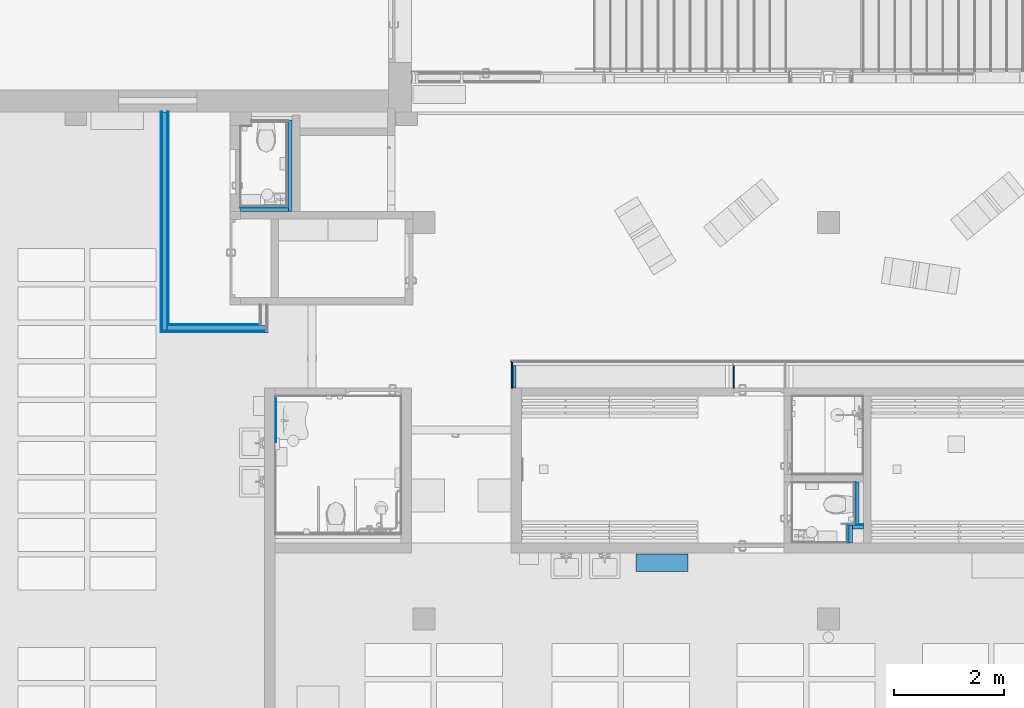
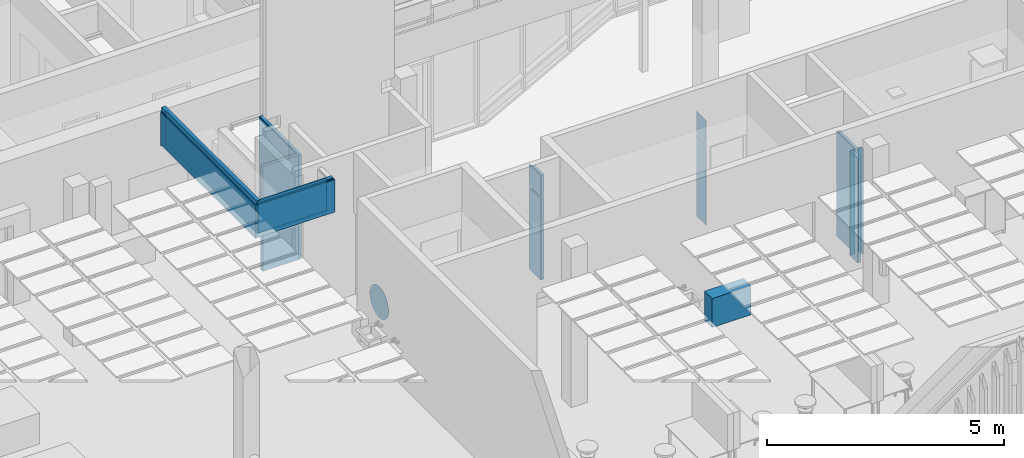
# One storey, part 185 of 301: 29 building element parts, 2 discrete accessories, 9 elements without a shape of their own.
"""IFC2X3 building model written with IfcOpenShell, lengths in millimetres."""

from ifc_helpers import new_model, entity, si_unit, converted_unit, derived_unit, money_unit, direction, frame, origin_with_axes, place, context, subcontext, project, spatial, faceted_brep, material, type_object, element, aggregate, save


model = new_model("IFC2X3")

# Units and contexts
model_context = context("Model", 3, precision=0.01, world=origin_with_axes(), true_north=direction((0.0, 1.0)))
body_context = subcontext(model_context, "Body", "Model", "MODEL_VIEW")
ifc_project = project(units=[si_unit("LENGTHUNIT", "METRE", prefix="MILLI"), si_unit("AREAUNIT", "SQUARE_METRE"), si_unit("VOLUMEUNIT", "CUBIC_METRE"), converted_unit("PLANEANGLEUNIT", "DEGREE", entity("IfcPlaneAngleMeasure", 0.0174532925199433), si_unit("PLANEANGLEUNIT", "RADIAN"), dimensions=[0, 0, 0, 0, 0, 0, 0]), money_unit("EUR"), converted_unit("TIMEUNIT", "Year", entity("IfcTimeMeasure", 31557600.0), si_unit("TIMEUNIT", "SECOND"), dimensions=[0, 0, 1, 0, 0, 0, 0]), si_unit("MASSUNIT", "GRAM", prefix="KILO"), si_unit("THERMODYNAMICTEMPERATUREUNIT", "DEGREE_CELSIUS"), si_unit("LUMINOUSINTENSITYUNIT", "LUMEN"), si_unit("ENERGYUNIT", "JOULE", prefix="MEGA"), derived_unit("THERMALCONDUCTANCEUNIT", [(si_unit("POWERUNIT", "WATT"), 1), (si_unit("LENGTHUNIT", "METRE"), -1), (si_unit("THERMODYNAMICTEMPERATUREUNIT", "KELVIN"), -1)]), derived_unit("SPECIFICHEATCAPACITYUNIT", [(si_unit("ENERGYUNIT", "JOULE"), 1), (si_unit("MASSUNIT", "GRAM", prefix="KILO"), -1), (si_unit("THERMODYNAMICTEMPERATUREUNIT", "KELVIN"), -1)]), derived_unit("MASSDENSITYUNIT", [(si_unit("MASSUNIT", "GRAM", prefix="KILO"), 1), (si_unit("VOLUMEUNIT", "CUBIC_METRE"), -1)])], contexts=[model_context])

# Site, building, storey
site_placement = place(None, frame((0.0, 0.0, 8650.0), z_axis=(0.0, 0.0, 1.0), x_axis=(1.0, 0.0, 0.0)))
site = spatial("IfcSite", under=ifc_project, at=site_placement, Name="43301:001:0844", CompositionType="ELEMENT")
building_placement = place(site_placement, origin_with_axes())
building = spatial("IfcBuilding", under=site, at=building_placement, Name="Kuressaare Ametikooli tuulikute mehaanikute õppekorpus", CompositionType="ELEMENT")
storey_placement = place(building_placement, origin_with_axes())
storey = spatial("IfcBuildingStorey", under=building, at=storey_placement, Name="1.korrus", CompositionType="ELEMENT", Elevation=0.0)

# Discrete accessories
discrete_accessory_type_1 = type_object("IfcDiscreteAccessoryType", Name="Cylinder 27")
discrete_accessory_1_placement = place(storey_placement, frame((101177.9525189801, 20174.79367567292, 1290.0), z_axis=(0.0, 0.0, 1.0), x_axis=(-1.0, 0.0, 0.0)))
element("IfcDiscreteAccessory", 1, at=discrete_accessory_1_placement, inside=storey, type_object=discrete_accessory_type_1, Name="P2", context=body_context, shape_type="Brep", body=[
    faceted_brep([(0.0, -136.8080573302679, -375.8770483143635), (-10.00000000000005, -136.8080573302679, -375.8770483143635), (-10.00000000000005, 0.0, -400.0), (0.0, 0.0, -400.0), (0.0, -257.1150438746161, -306.4177772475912), (-10.00000000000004, -257.1150438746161, -306.4177772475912), (-10.00000000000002, -346.4101615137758, -199.9999999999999), (-10.00000000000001, -393.9231012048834, -69.45927106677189), (-9.999999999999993, -393.9231012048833, 69.45927106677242), (-9.999999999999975, -346.4101615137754, 200.0000000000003), (-9.999999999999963, -257.1150438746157, 306.4177772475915), (-9.999999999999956, -136.8080573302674, 375.8770483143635), (-9.999999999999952, 0.0, 400.0000000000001), (-9.999999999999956, 136.8080573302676, 375.8770483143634), (-9.999999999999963, 257.1150438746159, 306.4177772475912), (-9.999999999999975, 346.4101615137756, 199.9999999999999), (-9.999999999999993, 393.9231012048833, 69.45927106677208), (-10.00000000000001, 393.9231012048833, -69.45927106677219), (-10.00000000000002, 346.4101615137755, -200.0000000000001), (-10.00000000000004, 257.1150438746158, -306.4177772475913), (-10.00000000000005, 136.8080573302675, -375.8770483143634), (0.0, 136.8080573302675, -375.8770483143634), (0.0, 257.1150438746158, -306.4177772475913), (0.0, 346.4101615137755, -200.0000000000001), (0.0, 393.9231012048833, -69.45927106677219), (0.0, 393.9231012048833, 69.45927106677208), (0.0, 346.4101615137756, 199.9999999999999), (0.0, 257.1150438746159, 306.4177772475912), (0.0, 136.8080573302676, 375.8770483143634), (0.0, 0.0, 400.0000000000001), (0.0, -136.8080573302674, 375.8770483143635), (0.0, -257.1150438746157, 306.4177772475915), (0.0, -346.4101615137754, 200.0000000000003), (0.0, -393.9231012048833, 69.45927106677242), (0.0, -393.9231012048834, -69.45927106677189), (0.0, -346.4101615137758, -199.9999999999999)], [[[0, 1, 2, 3]], [[4, 5, 1, 0]], [[1, 5, 6, 7, 8, 9, 10, 11, 12, 13, 14, 15, 16, 17, 18, 19, 20, 2]], [[3, 2, 20, 21]], [[0, 3, 21, 22, 23, 24, 25, 26, 27, 28, 29, 30, 31, 32, 33, 34, 35, 4]], [[35, 6, 5, 4]], [[34, 7, 6, 35]], [[33, 8, 7, 34]], [[32, 9, 8, 33]], [[31, 10, 9, 32]], [[30, 11, 10, 31]], [[29, 12, 11, 30]], [[28, 13, 12, 29]], [[27, 14, 13, 28]], [[26, 15, 14, 27]], [[25, 16, 15, 26]], [[24, 17, 16, 25]], [[23, 18, 17, 24]], [[22, 19, 18, 23]], [[21, 20, 19, 22]]]),
])
ifc_material_1 = material(Name="GENEERILINE - KONSTRUKTRIOON")
discrete_accessory_type_2 = type_object("IfcDiscreteAccessoryType", Name="GENEERILINE - KONSTRUKTRIOON 750")
discrete_accessory_2_placement = place(storey_placement, frame((107721.9337056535, 17754.91483016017, 0.0), z_axis=(0.0, 0.0, 1.0), x_axis=(1.0, 0.0, 0.0)))
element("IfcDiscreteAccessory", 2, at=discrete_accessory_2_placement, inside=storey, type_object=discrete_accessory_type_2, material=ifc_material_1, Name="PR2", context=body_context, shape_type="Brep", body=[
    faceted_brep([(0.0, 0.0, 750.0), (0.0, 0.0, 0.0), (0.0, -319.9999999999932, 0.0), (0.0, -319.9999999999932, 750.0), (949.9999999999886, 0.0, 750.0), (949.9999999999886, 0.0, 0.0), (949.9999999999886, -319.9999999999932, 0.0), (949.9999999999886, -319.9999999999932, 750.0)], [[[0, 1, 2, 3]], [[4, 5, 1, 0]], [[2, 1, 5, 6]], [[3, 2, 6, 7]], [[4, 0, 3, 7]], [[7, 6, 5, 4]]]),
])

# Wall, building element parts
wall_type_1 = type_object("IfcWallType", Name="SS-2.4 92", PredefinedType="NOTDEFINED")
wall_1_placement = place(storey_placement, frame((111565.5114242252, 18294.83712413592, 0.0), z_axis=(0.0, 0.0, 1.0), x_axis=(-3.329163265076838e-07, -0.9999999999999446, 0.0)))
wall_1 = element("IfcWall", 3, at=wall_1_placement, inside=storey, type_object=wall_type_1, Name="Sisesein")
ifc_material_2 = material(Name="Air Space - Frame")
building_element_part_1_placement = place(wall_1_placement, origin_with_axes())
building_element_part_1 = element("IfcBuildingElementPart", 4, at=building_element_part_1_placement, material=ifc_material_2, Name="Air Space - Frame", context=body_context, shape_type="Brep", body=[
    faceted_brep([(25.9999693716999, 92.00000000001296, 0.0), (25.9999693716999, 92.00000000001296, 2700.0), (340.0017374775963, 92.00000000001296, 2700.0), (340.0011823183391, 92.00000000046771, 2600.0), (340.0011823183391, 91.99999999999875, 0.0), (25.99999134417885, 26.00000000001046, 0.0), (25.99999134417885, 26.00000000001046, 2600.0), (25.99999134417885, 26.00000000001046, 2700.0), (340.0017374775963, 26.00000000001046, 2700.0), (340.0011284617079, 26.00000000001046, 0.0)], [[[0, 1, 2, 3, 4]], [[1, 0, 5, 6, 7]], [[1, 7, 8, 2]], [[2, 8, 9, 4, 3]], [[5, 0, 4, 9]], [[6, 5, 9, 8, 7]]]),
])
ifc_material_3 = material(Name="Plywood")
building_element_part_2_placement = place(wall_1_placement, origin_with_axes())
building_element_part_2 = element("IfcBuildingElementPart", 5, at=building_element_part_2_placement, material=ifc_material_3, Name="Plywood", context=body_context, shape_type="Brep", body=[
    faceted_brep([(12.99999134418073, 25.99999999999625, 0.0), (12.99999134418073, 25.99999999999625, 2700.0), (340.0017374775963, 26.00000000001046, 2700.0), (340.0011284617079, 26.00000000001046, 0.0), (12.99999567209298, 13.00000000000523, 0.0), (12.99999567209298, 13.00000000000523, 2600.0), (12.99999567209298, 13.00000000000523, 2700.0), (340.0017374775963, 13.00000000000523, 2700.0), (340.001117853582, 13.00000000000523, 0.0)], [[[0, 1, 2, 3]], [[1, 0, 4, 5, 6]], [[1, 6, 7, 2]], [[2, 7, 8, 3]], [[4, 0, 3, 8]], [[5, 4, 8, 7, 6]]]),
])
ifc_material_4 = material(Name="Plaster - Gypsum")
building_element_part_3_placement = place(wall_1_placement, origin_with_axes())
building_element_part_3 = element("IfcBuildingElementPart", 6, at=building_element_part_3_placement, material=ifc_material_4, Name="Plaster - Gypsum", context=body_context, shape_type="Brep", body=[
    faceted_brep([(340.001117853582, 13.00000000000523, 0.0), (-4.32791580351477e-06, 13.00000000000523, 0.0), (-4.32791580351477e-06, 13.00000000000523, 2700.0), (340.0017374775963, 13.00000000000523, 2700.0), (340.0011072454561, 0.0, 0.0), (0.0, 0.0, 0.0), (0.0, 0.0, 2700.0), (340.0017374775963, 0.0, 2700.0), (340.0011072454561, 5.258016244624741e-10, 2600.0)], [[[0, 1, 2, 3]], [[4, 5, 1, 0]], [[6, 2, 1, 5]], [[3, 2, 6, 7]], [[7, 8, 4, 0, 3]], [[6, 5, 4, 8, 7]]]),
])
aggregate(wall_1, [building_element_part_1, building_element_part_2, building_element_part_3])

wall_2_placement = place(storey_placement, frame((111855.5122796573, 18294.83712413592, 0.0), z_axis=(0.0, 0.0, 1.0), x_axis=(-1.0, 0.0, 0.0)))
wall_2 = element("IfcWall", 7, at=wall_2_placement, inside=storey, type_object=wall_type_1, Name="Sisesein")
building_element_part_4_placement = place(wall_2_placement, origin_with_axes())
building_element_part_4 = element("IfcBuildingElementPart", 8, at=building_element_part_4_placement, material=ifc_material_2, Name="Air Space - Frame", context=body_context, shape_type="Brep", body=[
    faceted_brep([(198.0008640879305, 25.9999999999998, 0.0), (198.0008640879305, 25.9999999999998, 2700.0), (-0.005232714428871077, 25.9999999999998, 2700.0), (-0.005232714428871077, 25.9999999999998, 0.0), (198.0008860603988, 91.99999999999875, 0.0), (198.0008860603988, 91.99999999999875, 2700.0), (-0.005379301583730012, 91.99999999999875, 2700.0), (-0.005379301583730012, 91.99999999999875, 0.0)], [[[0, 1, 2, 3]], [[1, 0, 4, 5]], [[1, 5, 6, 2]], [[3, 2, 6, 7]], [[4, 0, 3, 7]], [[4, 7, 6, 5]]]),
])
building_element_part_5_placement = place(wall_2_placement, origin_with_axes())
building_element_part_5 = element("IfcBuildingElementPart", 9, at=building_element_part_5_placement, material=ifc_material_3, Name="Plywood", context=body_context, shape_type="Brep", body=[
    faceted_brep([(264.0008597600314, 13.00000000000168, 0.0), (264.0008597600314, 13.00000000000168, 2700.0), (-0.005203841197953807, 13.00000000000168, 2700.0), (-0.005203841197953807, 13.00000000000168, 0.0), (264.000864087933, 25.9999999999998, 0.0), (264.000864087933, 25.9999999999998, 2700.0), (-0.005232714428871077, 25.9999999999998, 2700.0), (-0.005232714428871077, 25.9999999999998, 0.0)], [[[0, 1, 2, 3]], [[1, 0, 4, 5]], [[1, 5, 6, 2]], [[3, 2, 6, 7]], [[4, 0, 3, 7]], [[4, 7, 6, 5]]]),
])
building_element_part_6_placement = place(wall_2_placement, origin_with_axes())
building_element_part_6 = element("IfcBuildingElementPart", 10, at=building_element_part_6_placement, material=ifc_material_4, Name="Plaster - Gypsum", context=body_context, shape_type="Brep", body=[
    faceted_brep([(277.0008554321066, 0.0, 0.0), (277.0008554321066, 0.0, 2700.0), (156.9997514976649, 0.0, 2700.0), (156.9997514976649, 0.0, 0.0), (277.0008597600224, 13.00000000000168, 0.0), (277.0008597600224, 13.00000000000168, 2700.0), (156.9997488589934, 13.00000000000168, 2700.0), (156.9997488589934, 13.00000000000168, 2600.0), (156.9997488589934, 13.00000000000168, 0.0)], [[[0, 1, 2, 3]], [[1, 0, 4, 5]], [[1, 5, 6, 2]], [[2, 6, 7, 8, 3]], [[4, 0, 3, 8]], [[4, 8, 7, 6, 5]]]),
    faceted_brep([(77.99975149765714, 0.0, 2700.0), (-0.005174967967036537, 0.0, 2700.0), (-0.005174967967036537, 0.0, 0.0), (77.99975149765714, 0.0, 0.0), (77.99974885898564, 13.00000000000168, 2700.0), (-0.005203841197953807, 13.00000000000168, 2700.0), (-0.005203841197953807, 13.00000000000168, 0.0), (77.99974885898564, 13.00000000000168, 0.0), (77.99974885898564, 13.00000000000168, 2600.0)], [[[0, 1, 2, 3]], [[0, 4, 5, 1]], [[2, 1, 5, 6]], [[7, 3, 2, 6]], [[8, 4, 0, 3, 7]], [[4, 8, 7, 6, 5]]]),
])
aggregate(wall_2, [building_element_part_4, building_element_part_5, building_element_part_6])

wall_type_2 = type_object("IfcWallType", Name="SS-2.1 147", PredefinedType="NOTDEFINED")
wall_3_placement = place(storey_placement, frame((99086.0631579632, 25783.06892395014, 2640.0), z_axis=(0.0, 0.0, 1.0), x_axis=(0.0, -1.0, 0.0)))
wall_3 = element("IfcWall", 11, at=wall_3_placement, inside=storey, type_object=wall_type_2, Name="Sisesein")
ifc_material_5 = material(Name="Kipsplaat")
building_element_part_7_placement = place(wall_3_placement, origin_with_axes())
building_element_part_7 = element("IfcBuildingElementPart", 12, at=building_element_part_7_placement, material=ifc_material_5, Name="Kipsplaat", context=body_context, shape_type="Brep", body=[
    faceted_brep([(0.1305353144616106, 147.0000000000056, 49.99999999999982), (0.1305353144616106, 147.0000000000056, 0.0), (0.0, 147.0000000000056, 0.0), (0.0, 147.0000000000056, 889.9999999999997), (3866.930632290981, 147.0000000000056, 889.9999999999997), (3866.930632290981, 147.0000000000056, 49.99999999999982), (0.1323675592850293, 134.0000000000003, 49.99999999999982), (0.1323675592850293, 134.0000000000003, 0.0), (0.0, 134.0000000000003, 0.0), (0.0, 134.0000000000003, 889.9999999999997), (3866.930632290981, 134.0000000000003, 889.9999999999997), (3866.930632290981, 134.0000000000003, 49.99999999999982)], [[[0, 1, 2, 3, 4, 5]], [[1, 0, 6, 7]], [[1, 7, 8, 2]], [[9, 3, 2, 8]], [[4, 3, 9, 10]], [[11, 5, 4, 10]], [[0, 5, 11, 6]], [[6, 11, 10, 9, 8, 7]]]),
])
building_element_part_8_placement = place(wall_3_placement, origin_with_axes())
building_element_part_8 = element("IfcBuildingElementPart", 13, at=building_element_part_8_placement, material=ifc_material_5, Name="Kipsplaat", context=body_context, shape_type="Brep", body=[
    faceted_brep([(0.1323675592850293, 134.0000000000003, 49.99999999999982), (0.132367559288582, 134.0000000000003, 0.0), (0.0, 134.0000000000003, 0.0), (0.0, 134.0000000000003, 904.9999999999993), (3879.930632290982, 134.0000000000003, 904.9999999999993), (3879.930632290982, 134.0000000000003, 49.99999999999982), (0.1341998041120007, 120.9999999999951, 49.99999999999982), (0.1341998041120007, 120.9999999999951, 0.0), (0.0, 120.9999999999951, 0.0), (0.0, 120.9999999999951, 904.9999999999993), (3879.930632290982, 120.9999999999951, 904.9999999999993), (3879.930632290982, 120.9999999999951, 49.99999999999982)], [[[0, 1, 2, 3, 4, 5]], [[1, 0, 6, 7]], [[1, 7, 8, 2]], [[9, 3, 2, 8]], [[4, 3, 9, 10]], [[11, 5, 4, 10]], [[0, 5, 11, 6]], [[6, 11, 10, 9, 8, 7]]]),
])
ifc_material_6 = material(Name="Soojustus - Mineraalvill pehme")
building_element_part_9_placement = place(wall_3_placement, origin_with_axes())
building_element_part_9 = element("IfcBuildingElementPart", 14, at=building_element_part_9_placement, material=ifc_material_6, Name="Soojustus - Mineraalvill pehme", context=body_context, shape_type="Brep", body=[
    faceted_brep([(0.1341998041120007, 120.9999999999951, 49.99999999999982), (0.1341998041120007, 120.9999999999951, 0.0), (0.0, 120.9999999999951, 0.0), (0.0, 120.9999999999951, 999.9999999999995), (4000.930632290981, 120.9999999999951, 999.9999999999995), (4000.930632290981, 120.9999999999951, 924.9999999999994), (3974.930632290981, 120.9999999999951, 924.9999999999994), (3974.930632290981, 120.9999999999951, 49.99999999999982), (0.1475892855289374, 25.99999999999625, 49.99999999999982), (0.1475892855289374, 25.99999999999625, 0.0), (0.0, 25.99999999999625, 0.0), (0.0, 25.99999999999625, 999.9999999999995), (4000.930632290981, 25.99999999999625, 999.9999999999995), (4000.930632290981, 25.99999999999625, 924.9999999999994), (3974.930632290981, 25.99999999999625, 924.9999999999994), (3974.930632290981, 25.99999999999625, 49.99999999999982)], [[[0, 1, 2, 3, 4, 5, 6, 7]], [[1, 0, 8, 9]], [[1, 9, 10, 2]], [[11, 3, 2, 10]], [[4, 3, 11, 12]], [[4, 12, 13, 5]], [[13, 14, 6, 5]], [[15, 7, 6, 14]], [[0, 7, 15, 8]], [[8, 15, 14, 13, 12, 11, 10, 9]]]),
])
building_element_part_10_placement = place(wall_3_placement, origin_with_axes())
building_element_part_10 = element("IfcBuildingElementPart", 15, at=building_element_part_10_placement, material=ifc_material_5, Name="Kipsplaat", context=body_context, shape_type="Brep", body=[
    faceted_brep([(0.1494215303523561, 13.00000000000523, 49.99999999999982), (0.1494215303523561, 13.00000000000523, 0.0), (0.0, 13.00000000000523, 0.0), (0.0, 13.00000000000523, 889.9999999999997), (4000.930632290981, 13.00000000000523, 889.9999999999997), (4000.930632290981, 13.00000000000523, 49.99999999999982), (0.1512537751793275, 0.0, 49.99999999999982), (0.1512537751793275, 0.0, 0.0), (0.0, 0.0, 0.0), (0.0, 0.0, 889.9999999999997), (4000.930632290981, 0.0, 889.9999999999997), (4000.930632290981, 0.0, 49.99999999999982)], [[[0, 1, 2, 3, 4, 5]], [[1, 0, 6, 7]], [[1, 7, 8, 2]], [[9, 3, 2, 8]], [[4, 3, 9, 10]], [[11, 5, 4, 10]], [[0, 5, 11, 6]], [[6, 11, 10, 9, 8, 7]]]),
])
building_element_part_11_placement = place(wall_3_placement, origin_with_axes())
building_element_part_11 = element("IfcBuildingElementPart", 16, at=building_element_part_11_placement, material=ifc_material_5, Name="Kipsplaat", context=body_context, shape_type="Brep", body=[
    faceted_brep([(0.1475892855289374, 25.99999999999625, 49.99999999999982), (0.1475892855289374, 25.99999999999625, 0.0), (0.0, 25.99999999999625, 0.0), (0.0, 25.99999999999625, 904.9999999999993), (3987.930632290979, 25.99999999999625, 904.9999999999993), (3987.930632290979, 25.99999999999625, 49.99999999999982), (0.1494215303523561, 13.00000000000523, 49.99999999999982), (0.1494215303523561, 13.00000000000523, 0.0), (0.0, 13.00000000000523, 0.0), (0.0, 13.00000000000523, 904.9999999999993), (3987.930632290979, 13.00000000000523, 904.9999999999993), (3987.930632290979, 13.00000000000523, 49.99999999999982)], [[[0, 1, 2, 3, 4, 5]], [[1, 0, 6, 7]], [[1, 7, 8, 2]], [[9, 3, 2, 8]], [[4, 3, 9, 10]], [[11, 5, 4, 10]], [[0, 5, 11, 6]], [[6, 11, 10, 9, 8, 7]]]),
])
aggregate(wall_3, [building_element_part_7, building_element_part_8, building_element_part_9, building_element_part_10, building_element_part_11])

# Wall, building element part
wall_4_placement = place(storey_placement, frame((109505.5120074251, 21264.83624818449, 0.0), z_axis=(0.0, 0.0, 1.0), x_axis=(-1.369512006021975e-07, -0.9999999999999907, 0.0)))
wall_4 = element("IfcWall", 17, at=wall_4_placement, inside=storey, type_object=wall_type_1, Name="Sisesein")
building_element_part_12_placement = place(wall_4_placement, origin_with_axes())
building_element_part_12 = element("IfcBuildingElementPart", 18, at=building_element_part_12_placement, material=ifc_material_4, Name="Plaster - Gypsum", context=body_context, shape_type="Brep", body=[
    faceted_brep([(92.0000035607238, -13.00000000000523, 2100.0), (91.9999999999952, 0.0, 2100.0), (91.9999999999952, 0.0, 0.0), (92.0000035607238, -13.00000000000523, 0.0), (500.0005546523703, 0.0, 2100.0), (500.0005564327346, -12.99999999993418, 2100.0), (500.0000000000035, 0.0, 0.0), (500.0000000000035, -13.00000000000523, 0.0)], [[[0, 1, 2, 3]], [[4, 1, 0, 5]], [[1, 4, 6, 2]], [[2, 6, 7, 3]], [[5, 0, 3, 7]], [[4, 5, 7, 6]]]),
    faceted_brep([(500.0005546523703, 0.0, 2150.0), (91.9999999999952, 0.0, 2150.0), (91.9999999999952, 0.0, 2700.0), (500.0000000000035, 0.0, 2700.0), (92.0000035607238, -13.00000000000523, 2150.0), (500.0005564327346, -12.99999999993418, 2150.0), (92.0000035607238, -13.00000000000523, 2700.0), (500.0000000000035, -13.00000000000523, 2700.0)], [[[0, 1, 2, 3]], [[4, 1, 0, 5]], [[1, 4, 6, 2]], [[6, 7, 3, 2]], [[5, 0, 3, 7]], [[4, 5, 7, 6]]]),
])
aggregate(wall_4, [building_element_part_12])

# Wall, building element parts
wall_5_placement = place(storey_placement, frame((111685.5123738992, 19054.8358790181, 0.0), z_axis=(0.0, 0.0, 1.0), x_axis=(2.029745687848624e-07, -0.9999999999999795, 0.0)))
wall_5 = element("IfcWall", 19, at=wall_5_placement, inside=storey, type_object=wall_type_1, Name="Sisesein")
building_element_part_13_placement = place(wall_5_placement, origin_with_axes())
building_element_part_13 = element("IfcBuildingElementPart", 20, at=building_element_part_13_placement, material=ifc_material_3, Name="Plywood", context=body_context, shape_type="Brep", body=[
    faceted_brep([(772.9987575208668, 12.99999999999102, 2700.0), (772.9987601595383, 25.99999999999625, 2700.0), (6.294511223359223e-05, 25.99999999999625, 2700.0), (6.378973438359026e-05, 13.00000000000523, 2700.0), (772.9987575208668, 12.99999999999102, 0.0), (772.9987601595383, 25.99999999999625, 0.0), (6.294511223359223e-05, 25.99999999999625, 0.0), (6.378973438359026e-05, 13.00000000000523, 0.0)], [[[0, 1, 2, 3]], [[1, 0, 4, 5]], [[1, 5, 6, 2]], [[2, 6, 7, 3]], [[0, 3, 7, 4]], [[5, 4, 7, 6]]]),
])
building_element_part_14_placement = place(wall_5_placement, origin_with_axes())
building_element_part_14 = element("IfcBuildingElementPart", 21, at=building_element_part_14_placement, material=ifc_material_2, Name="Air Space - Frame", context=body_context, shape_type="Brep", body=[
    faceted_brep([(772.9987601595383, 25.99999999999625, 2700.0), (772.9987735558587, 91.99999999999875, 2700.0), (5.865703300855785e-05, 91.99999999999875, 2700.0), (6.294511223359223e-05, 25.99999999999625, 2700.0), (772.9987601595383, 25.99999999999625, 0.0), (772.9987735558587, 91.99999999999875, 0.0), (5.865703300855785e-05, 91.99999999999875, 0.0), (6.294511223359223e-05, 25.99999999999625, 0.0)], [[[0, 1, 2, 3]], [[1, 0, 4, 5]], [[1, 5, 6, 2]], [[2, 6, 7, 3]], [[0, 3, 7, 4]], [[5, 4, 7, 6]]]),
])
building_element_part_15_placement = place(wall_5_placement, origin_with_axes())
building_element_part_15 = element("IfcBuildingElementPart", 22, at=building_element_part_15_placement, material=ifc_material_4, Name="Plaster - Gypsum", context=body_context, shape_type="Brep", body=[
    faceted_brep([(759.9987548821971, 0.0, 2700.0), (759.9987575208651, 12.99999999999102, 2700.0), (6.378973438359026e-05, 13.00000000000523, 2700.0), (6.463435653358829e-05, 0.0, 2700.0), (759.9987548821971, 0.0, 0.0), (759.9987575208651, 12.99999999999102, 0.0), (6.378973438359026e-05, 13.00000000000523, 0.0), (6.463435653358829e-05, 0.0, 0.0)], [[[0, 1, 2, 3]], [[1, 0, 4, 5]], [[1, 5, 6, 2]], [[2, 6, 7, 3]], [[0, 3, 7, 4]], [[5, 4, 7, 6]]]),
])
aggregate(wall_5, [building_element_part_13, building_element_part_14, building_element_part_15])

wall_6_placement = place(storey_placement, frame((101383.6546914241, 24066.06964326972, 0.0), z_axis=(0.0, 0.0, 1.0), x_axis=(-1.0, 0.0, 0.0)))
wall_6 = element("IfcWall", 23, at=wall_6_placement, inside=storey, type_object=wall_type_1, Name="Sisesein")
building_element_part_16_placement = place(wall_6_placement, origin_with_axes())
building_element_part_16 = element("IfcBuildingElementPart", 24, at=building_element_part_16_placement, material=ifc_material_2, Name="Air Space - Frame", context=body_context, shape_type="Brep", body=[
    faceted_brep([(-25.99999999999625, 91.99999999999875, 2700.0), (-25.99999999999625, 25.9999999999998, 2700.0), (848.1713414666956, 25.9999999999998, 2700.0), (848.1789159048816, 91.99999999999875, 2700.0), (-25.99999999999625, 91.9999970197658, 0.0), (-25.99999999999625, 25.9999999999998, 0.0), (848.1713414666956, 25.9999999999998, 0.0), (848.1789159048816, 91.99999999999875, 0.0)], [[[0, 1, 2, 3]], [[1, 0, 4, 5]], [[1, 5, 6, 2]], [[3, 2, 6, 7]], [[0, 3, 7, 4]], [[5, 4, 7, 6]]]),
])
building_element_part_17_placement = place(wall_6_placement, origin_with_axes())
building_element_part_17 = element("IfcBuildingElementPart", 25, at=building_element_part_17_placement, material=ifc_material_3, Name="Plywood", context=body_context, shape_type="Brep", body=[
    faceted_brep([(-13.00000000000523, 25.9999999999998, 2700.0), (-13.00000000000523, 13.00000000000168, 2700.0), (848.1698495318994, 13.00000000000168, 2700.0), (848.1713414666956, 25.9999999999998, 2700.0), (-13.00000000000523, 25.9999999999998, 0.0), (-13.00000000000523, 13.00000000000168, 0.0), (848.1698495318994, 13.00000000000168, 0.0), (848.1713414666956, 25.9999999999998, 0.0)], [[[0, 1, 2, 3]], [[1, 0, 4, 5]], [[1, 5, 6, 2]], [[3, 2, 6, 7]], [[0, 3, 7, 4]], [[5, 4, 7, 6]]]),
])
building_element_part_18_placement = place(wall_6_placement, origin_with_axes())
building_element_part_18 = element("IfcBuildingElementPart", 26, at=building_element_part_18_placement, material=ifc_material_4, Name="Plaster - Gypsum", context=body_context, shape_type="Brep", body=[
    faceted_brep([(0.0, 13.00000000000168, 2700.0), (0.0, 0.0, 2700.0), (848.1683575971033, 0.0, 2700.0), (848.1698495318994, 13.00000000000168, 2700.0), (0.0, 13.00000000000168, 0.0), (0.0, 0.0, 0.0), (848.1683575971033, 0.0, 0.0), (848.1698495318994, 13.00000000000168, 0.0)], [[[0, 1, 2, 3]], [[1, 0, 4, 5]], [[1, 5, 6, 2]], [[3, 2, 6, 7]], [[0, 3, 7, 4]], [[5, 4, 7, 6]]]),
])
aggregate(wall_6, [building_element_part_16, building_element_part_17, building_element_part_18])

wall_7_placement = place(storey_placement, frame((101383.6546914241, 24066.06964326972, 0.0), z_axis=(0.0, 0.0, 1.0), x_axis=(0.0, 1.0, 0.0)))
wall_7 = element("IfcWall", 27, at=wall_7_placement, inside=storey, type_object=wall_type_1, Name="Sisesein")
building_element_part_19_placement = place(wall_7_placement, origin_with_axes())
building_element_part_19 = element("IfcBuildingElementPart", 28, at=building_element_part_19_placement, material=ifc_material_3, Name="Plywood", context=body_context, shape_type="Brep", body=[
    faceted_brep([(-25.9999999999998, -13.00000000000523, 2700.0), (-25.9999999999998, -25.99999999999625, 2700.0), (1555.06976561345, -25.99999999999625, 2700.0), (1555.06976561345, -13.00000000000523, 2700.0), (-25.9999999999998, -25.99999999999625, 2600.0), (-25.9999999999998, -13.00000000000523, 0.0), (-25.9999999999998, -25.99999999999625, 0.0), (1555.069765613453, -25.99999999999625, 0.0), (1555.069765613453, -13.00000000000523, 0.0)], [[[0, 1, 2, 3]], [[4, 1, 0, 5, 6]], [[1, 4, 6, 7, 2]], [[2, 7, 8, 3]], [[0, 3, 8, 5]], [[6, 5, 8, 7]]]),
])
building_element_part_20_placement = place(wall_7_placement, origin_with_axes())
building_element_part_20 = element("IfcBuildingElementPart", 29, at=building_element_part_20_placement, material=ifc_material_2, Name="Air Space - Frame", context=body_context, shape_type="Brep", body=[
    faceted_brep([(1568.069765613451, -91.99999999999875, 0.0), (1568.069765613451, -91.99999999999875, 2700.0), (-91.99999999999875, -91.99999999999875, 2700.0), (-91.9999970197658, -91.99999999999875, 0.0), (1568.069765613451, -25.99999999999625, 0.0), (1568.069765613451, -25.99999999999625, 2700.0), (-91.99999999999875, -25.99999999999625, 2700.0), (-91.9999970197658, -25.99999999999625, 0.0)], [[[0, 1, 2, 3]], [[1, 0, 4, 5]], [[1, 5, 6, 2]], [[3, 2, 6, 7]], [[4, 0, 3, 7]], [[4, 7, 6, 5]]]),
])
building_element_part_21_placement = place(wall_7_placement, origin_with_axes())
building_element_part_21 = element("IfcBuildingElementPart", 30, at=building_element_part_21_placement, material=ifc_material_4, Name="Plaster - Gypsum", context=body_context, shape_type="Brep", body=[
    faceted_brep([(-13.00000000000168, 0.0, 2700.0), (-13.00000000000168, -13.00000000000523, 2700.0), (1542.069765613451, -13.00000000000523, 2700.0), (1542.069765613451, 0.0, 2700.0), (-13.00000000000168, -13.00000000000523, 2600.0), (-13.00000000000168, 0.0, 0.0), (-13.00000000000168, -13.00000000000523, 0.0), (1542.069765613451, -13.00000000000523, 0.0), (1542.069765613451, 0.0, 0.0)], [[[0, 1, 2, 3]], [[4, 1, 0, 5, 6]], [[1, 4, 6, 7, 2]], [[2, 7, 8, 3]], [[0, 3, 8, 5]], [[6, 5, 8, 7]]]),
])
aggregate(wall_7, [building_element_part_19, building_element_part_20, building_element_part_21])

wall_8_placement = place(storey_placement, frame((99086.0631579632, 21782.13829165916, 2640.0), z_axis=(0.0, 0.0, 1.0), x_axis=(1.0, 0.0, 0.0)))
wall_8 = element("IfcWall", 31, at=wall_8_placement, inside=storey, type_object=wall_type_2, Name="Sisesein")
building_element_part_22_placement = place(wall_8_placement, origin_with_axes())
building_element_part_22 = element("IfcBuildingElementPart", 32, at=building_element_part_22_placement, material=ifc_material_5, Name="Kipsplaat", context=body_context, shape_type="Brep", body=[
    faceted_brep([(1825.49637580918, 120.9999999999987, 49.99999999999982), (1825.497867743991, 134.0000000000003, 49.99999999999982), (1825.497867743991, 134.0000000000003, 904.9999999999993), (1825.49637580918, 120.9999999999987, 904.9999999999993), (134.0000000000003, 134.0000000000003, 49.99999999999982), (134.0000000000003, 120.9999999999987, 49.99999999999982), (134.0000000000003, 134.0000000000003, 904.9999999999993), (134.0000000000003, 120.9999999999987, 904.9999999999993)], [[[0, 1, 2, 3]], [[4, 1, 0, 5]], [[1, 4, 6, 2]], [[3, 2, 6, 7]], [[5, 0, 3, 7]], [[4, 5, 7, 6]]]),
])
building_element_part_23_placement = place(wall_8_placement, origin_with_axes())
building_element_part_23 = element("IfcBuildingElementPart", 33, at=building_element_part_23_placement, material=ifc_material_6, Name="Soojustus - Mineraalvill pehme", context=body_context, shape_type="Brep", body=[
    faceted_brep([(1920.485473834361, 25.9999999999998, 49.99999999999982), (1920.496376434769, 120.9999999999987, 49.99999999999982), (1920.496376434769, 120.9999999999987, 924.9999999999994), (1920.485473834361, 25.9999999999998, 924.9999999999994), (120.9999999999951, 120.9999999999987, 49.99999999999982), (120.9999999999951, 25.9999999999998, 49.99999999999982), (120.9999999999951, 120.9999999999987, 924.9999999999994), (120.9999999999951, 25.9999999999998, 924.9999999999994)], [[[0, 1, 2, 3]], [[4, 1, 0, 5]], [[1, 4, 6, 2]], [[3, 2, 6, 7]], [[5, 0, 3, 7]], [[4, 5, 7, 6]]]),
])
building_element_part_24_placement = place(wall_8_placement, origin_with_axes())
building_element_part_24 = element("IfcBuildingElementPart", 34, at=building_element_part_24_placement, material=ifc_material_5, Name="Kipsplaat", context=body_context, shape_type="Brep", body=[
    faceted_brep([(1933.483981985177, 13.00000000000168, 49.99999999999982), (1933.485473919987, 25.9999999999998, 49.99999999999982), (1933.485473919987, 25.9999999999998, 904.9999999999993), (1933.483981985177, 13.00000000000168, 904.9999999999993), (25.99999999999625, 25.9999999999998, 49.99999999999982), (25.99999999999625, 13.00000000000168, 49.99999999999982), (25.99999999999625, 25.9999999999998, 904.9999999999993), (25.99999999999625, 13.00000000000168, 904.9999999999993)], [[[0, 1, 2, 3]], [[4, 1, 0, 5]], [[1, 4, 6, 2]], [[3, 2, 6, 7]], [[5, 0, 3, 7]], [[4, 5, 7, 6]]]),
])
building_element_part_25_placement = place(wall_8_placement, origin_with_axes())
building_element_part_25 = element("IfcBuildingElementPart", 35, at=building_element_part_25_placement, material=ifc_material_5, Name="Kipsplaat", context=body_context, shape_type="Brep", body=[
    faceted_brep([(1946.482490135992, 0.0, 49.99999999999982), (1946.483982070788, 13.00000000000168, 49.99999999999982), (1946.483982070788, 13.00000000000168, 889.9999999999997), (1946.482490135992, 0.0, 889.9999999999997), (13.00000000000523, 13.00000000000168, 49.99999999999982), (13.00000000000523, 0.0, 49.99999999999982), (13.00000000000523, 13.00000000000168, 889.9999999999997), (13.00000000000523, 0.0, 889.9999999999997)], [[[0, 1, 2, 3]], [[4, 1, 0, 5]], [[1, 4, 6, 2]], [[3, 2, 6, 7]], [[5, 0, 3, 7]], [[4, 5, 7, 6]]]),
])
building_element_part_26_placement = place(wall_8_placement, origin_with_axes())
building_element_part_26 = element("IfcBuildingElementPart", 36, at=building_element_part_26_placement, material=ifc_material_5, Name="Kipsplaat", context=body_context, shape_type="Brep", body=[
    faceted_brep([(1812.497867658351, 134.0000000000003, 49.99999999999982), (1812.499359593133, 146.9999999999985, 49.99999999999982), (1812.499359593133, 146.9999999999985, 889.9999999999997), (1812.497867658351, 134.0000000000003, 889.9999999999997), (147.0000000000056, 146.9999999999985, 49.99999999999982), (147.0000000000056, 134.0000000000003, 49.99999999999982), (147.0000000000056, 146.9999999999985, 889.9999999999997), (147.0000000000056, 134.0000000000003, 889.9999999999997)], [[[0, 1, 2, 3]], [[4, 1, 0, 5]], [[1, 4, 6, 2]], [[3, 2, 6, 7]], [[5, 0, 3, 7]], [[4, 5, 7, 6]]]),
])
aggregate(wall_8, [building_element_part_22, building_element_part_23, building_element_part_24, building_element_part_25, building_element_part_26])

wall_9_placement = place(storey_placement, frame((105455.5118780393, 21264.83569353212, 0.0), z_axis=(0.0, 0.0, 1.0), x_axis=(1.369512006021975e-07, -0.9999999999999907, 0.0)))
wall_9 = element("IfcWall", 37, at=wall_9_placement, inside=storey, type_object=wall_type_1, Name="Sisesein")
building_element_part_27_placement = place(wall_9_placement, origin_with_axes())
building_element_part_27 = element("IfcBuildingElementPart", 38, at=building_element_part_27_placement, material=ifc_material_2, Name="Air Space - Frame", context=body_context, shape_type="Brep", body=[
    faceted_brep([(92.0000000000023, 25.99999999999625, 2100.0), (92.00000000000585, 90.00004831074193, 2100.0), (92.00000000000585, 90.00004831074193, 0.0), (92.0000000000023, 25.99999999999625, 0.0), (500.0000123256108, 89.99999243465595, 2100.0), (500.0000035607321, 26.00000000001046, 2100.0), (499.999457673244, 89.999992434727, 0.0), (500.0, 26.00000000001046, 0.0)], [[[0, 1, 2, 3]], [[4, 1, 0, 5]], [[1, 4, 6, 2]], [[2, 6, 7, 3]], [[5, 0, 3, 7]], [[4, 5, 7, 6]]]),
    faceted_brep([(500.0000125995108, 91.99999999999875, 2150.0), (92.0000000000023, 91.99999999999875, 2150.0), (92.0000000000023, 91.99999999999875, 2700.0), (500.0, 91.99999999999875, 2700.0), (92.0000000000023, 25.99999999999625, 2150.0), (500.0000035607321, 26.00000000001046, 2150.0), (92.0000000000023, 25.99999999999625, 2700.0), (500.0, 26.00000000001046, 2700.0)], [[[0, 1, 2, 3]], [[4, 1, 0, 5]], [[1, 4, 6, 2]], [[6, 7, 3, 2]], [[5, 0, 3, 7]], [[4, 5, 7, 6]]]),
])
building_element_part_28_placement = place(wall_9_placement, origin_with_axes())
building_element_part_28 = element("IfcBuildingElementPart", 39, at=building_element_part_28_placement, material=ifc_material_3, Name="Plywood", context=body_context, shape_type="Brep", body=[
    faceted_brep([(25.99999999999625, 13.00000000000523, 2100.0), (25.9999999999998, 25.99999999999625, 2100.0), (25.9999999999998, 25.99999999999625, 0.0), (25.99999999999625, 13.00000000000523, 0.0), (500.0000035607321, 26.00000000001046, 2100.0), (500.0000017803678, 13.00000000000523, 2100.0), (500.0, 26.00000000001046, 0.0), (500.0000000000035, 13.00000000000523, 0.0)], [[[0, 1, 2, 3]], [[4, 1, 0, 5]], [[1, 4, 6, 2]], [[2, 6, 7, 3]], [[5, 0, 3, 7]], [[4, 5, 7, 6]]]),
    faceted_brep([(500.0000035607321, 26.00000000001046, 2150.0), (25.9999999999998, 25.99999999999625, 2150.0), (25.9999999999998, 25.99999999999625, 2700.0), (500.0, 26.00000000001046, 2700.0), (25.99999999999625, 13.00000000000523, 2150.0), (500.0000017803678, 13.00000000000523, 2150.0), (25.99999999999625, 13.00000000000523, 2700.0), (500.0000000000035, 13.00000000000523, 2700.0)], [[[0, 1, 2, 3]], [[4, 1, 0, 5]], [[1, 4, 6, 2]], [[6, 7, 3, 2]], [[5, 0, 3, 7]], [[4, 5, 7, 6]]]),
])
building_element_part_29_placement = place(wall_9_placement, origin_with_axes())
building_element_part_29 = element("IfcBuildingElementPart", 40, at=building_element_part_29_placement, material=ifc_material_4, Name="Plaster - Gypsum", context=body_context, shape_type="Brep", body=[
    faceted_brep([(13.00000000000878, 6.669523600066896e-05, 2100.0), (12.99999999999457, 13.00000000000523, 2100.0), (12.99999999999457, 13.00000000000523, 0.0), (12.99999999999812, 0.0, 0.0), (500.0000017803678, 13.00000000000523, 2100.0), (500.0000000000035, 0.0, 2100.0), (500.0000000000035, 13.00000000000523, 0.0), (500.0000000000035, 0.0, 0.0)], [[[0, 1, 2, 3]], [[4, 1, 0, 5]], [[1, 4, 6, 2]], [[2, 6, 7, 3]], [[5, 0, 3, 7]], [[4, 5, 7, 6]]]),
    faceted_brep([(500.0000017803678, 13.00000000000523, 2150.0), (12.99999999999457, 13.00000000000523, 2150.0), (12.99999999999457, 13.00000000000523, 2700.0), (500.0000000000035, 13.00000000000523, 2700.0), (13.00000000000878, 6.669523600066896e-05, 2150.0), (500.0000000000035, 0.0, 2150.0), (12.99999999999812, 0.0, 2700.0), (500.0000000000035, 0.0, 2700.0)], [[[0, 1, 2, 3]], [[4, 1, 0, 5]], [[1, 4, 6, 2]], [[6, 7, 3, 2]], [[5, 0, 3, 7]], [[4, 5, 7, 6]]]),
])
aggregate(wall_9, [building_element_part_27, building_element_part_28, building_element_part_29])

save(model, "model.ifc")
